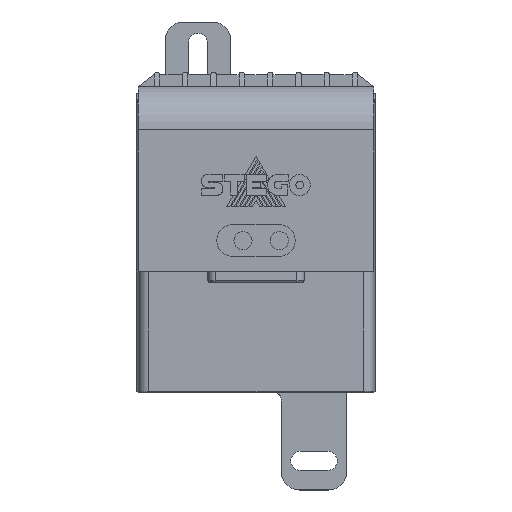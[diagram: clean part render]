
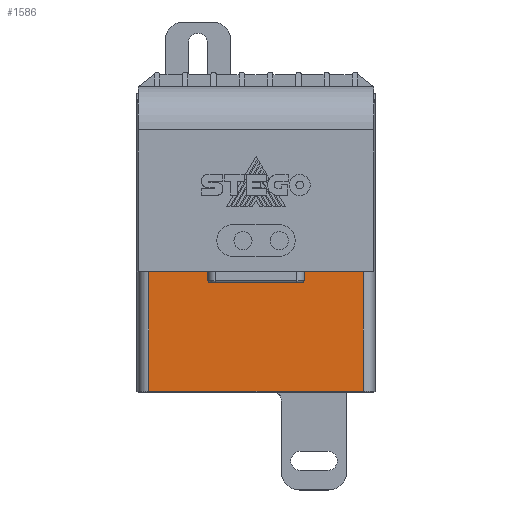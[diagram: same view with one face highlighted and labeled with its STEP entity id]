
A CAD part, top view. The second image highlights one B-rep face of the part: STEP entity #1586.
In plain terms, the highlighted planar face has unit normal (0, 0, 1).
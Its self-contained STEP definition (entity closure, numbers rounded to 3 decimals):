
#559 = LINE ( 'NONE', #15962, #7510 ) ;
#976 = VECTOR ( 'NONE', #6138, 1000. ) ;
#1035 = DIRECTION ( 'NONE',  ( 0., 0., -1. ) ) ;
#1489 = FACE_OUTER_BOUND ( 'NONE', #15778, .T. ) ;
#1586 = ADVANCED_FACE ( 'NONE', ( #1489 ), #18824, .F. ) ;
#1617 = EDGE_CURVE ( 'NONE', #31854, #26966, #559, .T. ) ;
#2532 = VECTOR ( 'NONE', #31353, 1000. ) ;
#4415 = CARTESIAN_POINT ( 'NONE',  ( 62.5, -27.75, 108. ) ) ;
#6138 = DIRECTION ( 'NONE',  ( 0., -1., 0. ) ) ;
#6593 = DIRECTION ( 'NONE',  ( 1., 0., 0. ) ) ;
#7510 = VECTOR ( 'NONE', #27872, 1000. ) ;
#7846 = ORIENTED_EDGE ( 'NONE', *, *, #21895, .T. ) ;
#8316 = EDGE_CURVE ( 'NONE', #29956, #26966, #20597, .T. ) ;
#8856 = LINE ( 'NONE', #26721, #976 ) ;
#8872 = CARTESIAN_POINT ( 'NONE',  ( 3.5, -27.75, 108. ) ) ;
#13634 = CARTESIAN_POINT ( 'NONE',  ( 0.357, -27.75, 108. ) ) ;
#15309 = CARTESIAN_POINT ( 'NONE',  ( 0.357, 5.25, 108. ) ) ;
#15778 = EDGE_LOOP ( 'NONE', ( #21619, #37028, #7846, #27742 ) ) ;
#15849 = CARTESIAN_POINT ( 'NONE',  ( 0.357, 5.25, 108. ) ) ;
#15962 = CARTESIAN_POINT ( 'NONE',  ( 62.5, 5.25, 108. ) ) ;
#18177 = VERTEX_POINT ( 'NONE', #8872 ) ;
#18227 = EDGE_CURVE ( 'NONE', #29956, #18177, #8856, .T. ) ;
#18375 = LINE ( 'NONE', #13634, #2532 ) ;
#18689 = AXIS2_PLACEMENT_3D ( 'NONE', #15849, #1035, #21794 ) ;
#18824 = PLANE ( 'NONE',  #18689 ) ;
#19673 = VECTOR ( 'NONE', #6593, 1000. ) ;
#20597 = LINE ( 'NONE', #15309, #19673 ) ;
#21619 = ORIENTED_EDGE ( 'NONE', *, *, #8316, .F. ) ;
#21794 = DIRECTION ( 'NONE',  ( -1., 0., 0. ) ) ;
#21895 = EDGE_CURVE ( 'NONE', #18177, #31854, #18375, .T. ) ;
#24167 = CARTESIAN_POINT ( 'NONE',  ( 62.5, 5.25, 108. ) ) ;
#26721 = CARTESIAN_POINT ( 'NONE',  ( 3.5, 5.25, 108. ) ) ;
#26966 = VERTEX_POINT ( 'NONE', #24167 ) ;
#27516 = CARTESIAN_POINT ( 'NONE',  ( 3.5, 5.25, 108. ) ) ;
#27742 = ORIENTED_EDGE ( 'NONE', *, *, #1617, .T. ) ;
#27872 = DIRECTION ( 'NONE',  ( 0., 1., 0. ) ) ;
#29956 = VERTEX_POINT ( 'NONE', #27516 ) ;
#31353 = DIRECTION ( 'NONE',  ( 1., 0., 0. ) ) ;
#31854 = VERTEX_POINT ( 'NONE', #4415 ) ;
#37028 = ORIENTED_EDGE ( 'NONE', *, *, #18227, .T. ) ;
